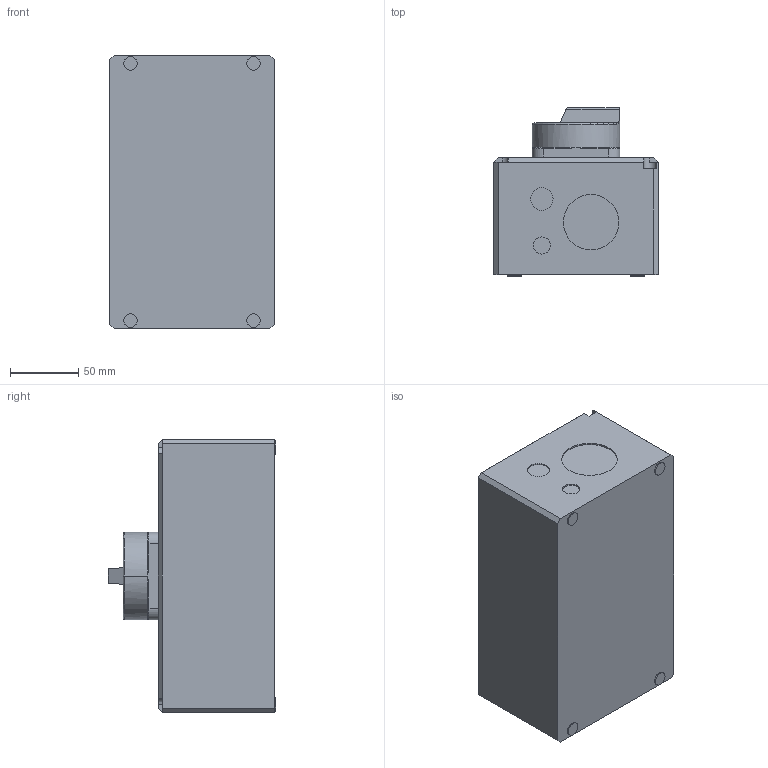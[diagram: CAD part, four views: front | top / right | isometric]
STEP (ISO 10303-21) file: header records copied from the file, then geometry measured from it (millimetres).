
FILE_DESCRIPTION (( 'STEP AP203' ), '1' );
FILE_NAME ('LTS63_80 PFH4 A3.STEP', '2014-05-12T08:42:06', ( '' ), ( '' ), 'SwSTEP 2.0', 'SolidWorks 2014', '' );
FILE_SCHEMA (( 'CONFIG_CONTROL_DESIGN' ));
Length unit declared in the file: millimetre
Products named in the file (3): Gehäuse PF2; SV4_64x64; LTS63_80 PFH4 A3
Assembly tree (2 placements, depth 2):
  LTS63_80 PFH4 A3
    Gehäuse PF2
    SV4_64x64
Bounding box: 120 x 122.7 x 200 mm (x, y, z)
Volume: 2101421.5 mm3; surface area: 120479.3 mm2
Topology: 2 solids, 2 shells, 135 faces, 325 edges, 200 vertices
Faces by surface type: plane 62, cylinder 55, bspline 10, torus 8
Entity records: 4496 total; most frequent: CARTESIAN_POINT 1092, DIRECTION 679, ORIENTED_EDGE 634, EDGE_CURVE 317, AXIS2_PLACEMENT_3D 263, VERTEX_POINT 200, VECTOR 153, LINE 153
